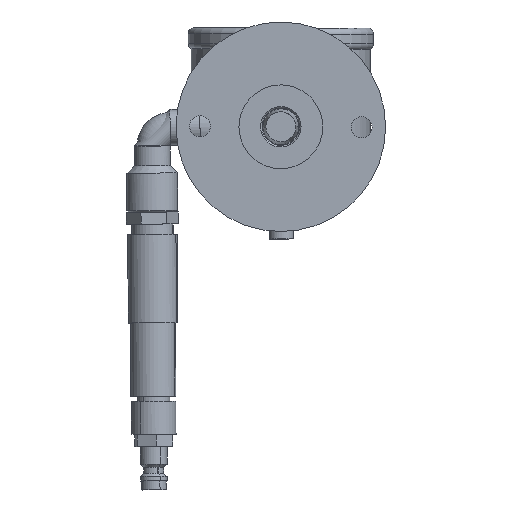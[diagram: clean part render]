
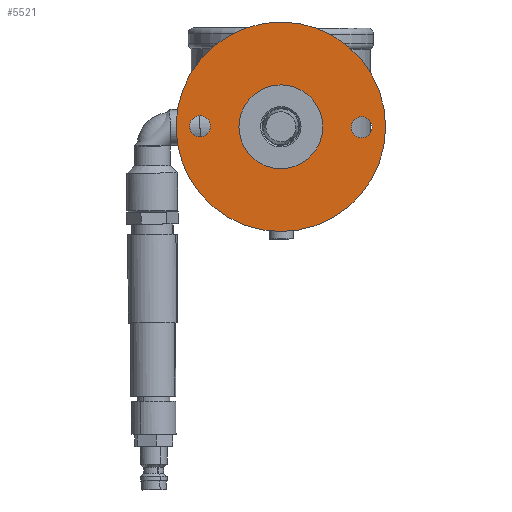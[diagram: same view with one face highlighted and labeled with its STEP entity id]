
A CAD part, front view. The second image highlights one B-rep face of the part: STEP entity #5521.
In plain terms, the highlighted planar face has unit normal (0, -1, 0) as drawn and (-1, 0, 0) by its records, which use the part's own axes.
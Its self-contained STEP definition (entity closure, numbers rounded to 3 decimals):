
#26 = ORIENTED_EDGE ( 'NONE', *, *, #6858, .T. ) ;
#189 = DIRECTION ( 'NONE',  ( 1., 0., 0. ) ) ;
#286 = VERTEX_POINT ( 'NONE', #2607 ) ;
#326 = DIRECTION ( 'NONE',  ( 0., 0., -1. ) ) ;
#508 = DIRECTION ( 'NONE',  ( 1., 0., 0. ) ) ;
#558 = EDGE_LOOP ( 'NONE', ( #6969, #1965 ) ) ;
#704 = CIRCLE ( 'NONE', #5731, 14. ) ;
#757 = ORIENTED_EDGE ( 'NONE', *, *, #1771, .F. ) ;
#845 = CARTESIAN_POINT ( 'NONE',  ( 3., 0., 0. ) ) ;
#949 = AXIS2_PLACEMENT_3D ( 'NONE', #845, #7189, #2954 ) ;
#1026 = ORIENTED_EDGE ( 'NONE', *, *, #8485, .T. ) ;
#1054 = VERTEX_POINT ( 'NONE', #7876 ) ;
#1132 = ORIENTED_EDGE ( 'NONE', *, *, #3449, .F. ) ;
#1676 = VERTEX_POINT ( 'NONE', #5721 ) ;
#1771 = EDGE_CURVE ( 'NONE', #5814, #286, #3364, .T. ) ;
#1802 = CIRCLE ( 'NONE', #8691, 14. ) ;
#1965 = ORIENTED_EDGE ( 'NONE', *, *, #6054, .T. ) ;
#1974 = CIRCLE ( 'NONE', #3984, 3.5 ) ;
#2077 = CIRCLE ( 'NONE', #5890, 3.5 ) ;
#2238 = CIRCLE ( 'NONE', #7728, 35. ) ;
#2329 = DIRECTION ( 'NONE',  ( 1., 0., 0. ) ) ;
#2380 = CARTESIAN_POINT ( 'NONE',  ( 3., 0., 0. ) ) ;
#2607 = CARTESIAN_POINT ( 'NONE',  ( 3., 0., -35. ) ) ;
#2630 = CARTESIAN_POINT ( 'NONE',  ( 3., 0., 0. ) ) ;
#2954 = DIRECTION ( 'NONE',  ( 0., 0., -1. ) ) ;
#3083 = DIRECTION ( 'NONE',  ( 0., 0., -1. ) ) ;
#3250 = ORIENTED_EDGE ( 'NONE', *, *, #4748, .T. ) ;
#3294 = CARTESIAN_POINT ( 'NONE',  ( 3., 0., 35. ) ) ;
#3343 = DIRECTION ( 'NONE',  ( 0., 0., -1. ) ) ;
#3364 = CIRCLE ( 'NONE', #9126, 35. ) ;
#3449 = EDGE_CURVE ( 'NONE', #286, #5814, #2238, .T. ) ;
#3493 = CARTESIAN_POINT ( 'NONE',  ( 3., 27., 0. ) ) ;
#3577 = EDGE_CURVE ( 'NONE', #6994, #9095, #1802, .T. ) ;
#3578 = DIRECTION ( 'NONE',  ( 1., 0., 0. ) ) ;
#3863 = EDGE_CURVE ( 'NONE', #1676, #1054, #4966, .T. ) ;
#3916 = CARTESIAN_POINT ( 'NONE',  ( 3., -27., 3.5 ) ) ;
#3954 = EDGE_LOOP ( 'NONE', ( #7846, #26 ) ) ;
#3984 = AXIS2_PLACEMENT_3D ( 'NONE', #6542, #2329, #7253 ) ;
#4047 = AXIS2_PLACEMENT_3D ( 'NONE', #7815, #3578, #8536 ) ;
#4194 = DIRECTION ( 'NONE',  ( 0., 0., -1. ) ) ;
#4405 = CARTESIAN_POINT ( 'NONE',  ( 3., 0., 0. ) ) ;
#4539 = DIRECTION ( 'NONE',  ( 1., 0., 0. ) ) ;
#4570 = FACE_BOUND ( 'NONE', #558, .T. ) ;
#4703 = CARTESIAN_POINT ( 'NONE',  ( 3., -27., 0. ) ) ;
#4748 = EDGE_CURVE ( 'NONE', #8432, #5071, #1974, .T. ) ;
#4781 = FACE_BOUND ( 'NONE', #6611, .T. ) ;
#4966 = CIRCLE ( 'NONE', #4047, 3.5 ) ;
#5071 = VERTEX_POINT ( 'NONE', #8927 ) ;
#5105 = DIRECTION ( 'NONE',  ( 0., 0., -1. ) ) ;
#5220 = CIRCLE ( 'NONE', #7867, 3.5 ) ;
#5416 = DIRECTION ( 'NONE',  ( 0., 0., -1. ) ) ;
#5521 = ADVANCED_FACE ( 'NONE', ( #4781, #4570, #8569, #6670 ), #5762, .F. ) ;
#5721 = CARTESIAN_POINT ( 'NONE',  ( 3., 27., -3.5 ) ) ;
#5731 = AXIS2_PLACEMENT_3D ( 'NONE', #8787, #4539, #326 ) ;
#5762 = PLANE ( 'NONE',  #949 ) ;
#5814 = VERTEX_POINT ( 'NONE', #3294 ) ;
#5890 = AXIS2_PLACEMENT_3D ( 'NONE', #4703, #508, #5416 ) ;
#6039 = CARTESIAN_POINT ( 'NONE',  ( 3., 0., 14. ) ) ;
#6054 = EDGE_CURVE ( 'NONE', #1054, #1676, #5220, .T. ) ;
#6542 = CARTESIAN_POINT ( 'NONE',  ( 3., -27., 0. ) ) ;
#6611 = EDGE_LOOP ( 'NONE', ( #1026, #3250 ) ) ;
#6670 = FACE_OUTER_BOUND ( 'NONE', #8120, .T. ) ;
#6858 = EDGE_CURVE ( 'NONE', #9095, #6994, #704, .T. ) ;
#6869 = CARTESIAN_POINT ( 'NONE',  ( 3., 0., -14. ) ) ;
#6969 = ORIENTED_EDGE ( 'NONE', *, *, #3863, .T. ) ;
#6994 = VERTEX_POINT ( 'NONE', #6039 ) ;
#7189 = DIRECTION ( 'NONE',  ( 1., 0., 0. ) ) ;
#7253 = DIRECTION ( 'NONE',  ( 0., 0., -1. ) ) ;
#7308 = DIRECTION ( 'NONE',  ( 1., 0., 0. ) ) ;
#7568 = DIRECTION ( 'NONE',  ( 1., 0., 0. ) ) ;
#7728 = AXIS2_PLACEMENT_3D ( 'NONE', #4405, #189, #5105 ) ;
#7815 = CARTESIAN_POINT ( 'NONE',  ( 3., 27., 0. ) ) ;
#7846 = ORIENTED_EDGE ( 'NONE', *, *, #3577, .T. ) ;
#7867 = AXIS2_PLACEMENT_3D ( 'NONE', #3493, #8442, #4194 ) ;
#7876 = CARTESIAN_POINT ( 'NONE',  ( 3., 27., 3.5 ) ) ;
#8120 = EDGE_LOOP ( 'NONE', ( #757, #1132 ) ) ;
#8432 = VERTEX_POINT ( 'NONE', #3916 ) ;
#8442 = DIRECTION ( 'NONE',  ( 1., 0., 0. ) ) ;
#8485 = EDGE_CURVE ( 'NONE', #5071, #8432, #2077, .T. ) ;
#8536 = DIRECTION ( 'NONE',  ( 0., 0., -1. ) ) ;
#8569 = FACE_BOUND ( 'NONE', #3954, .T. ) ;
#8691 = AXIS2_PLACEMENT_3D ( 'NONE', #2380, #7308, #3083 ) ;
#8787 = CARTESIAN_POINT ( 'NONE',  ( 3., 0., 0. ) ) ;
#8927 = CARTESIAN_POINT ( 'NONE',  ( 3., -27., -3.5 ) ) ;
#9095 = VERTEX_POINT ( 'NONE', #6869 ) ;
#9126 = AXIS2_PLACEMENT_3D ( 'NONE', #2630, #7568, #3343 ) ;
